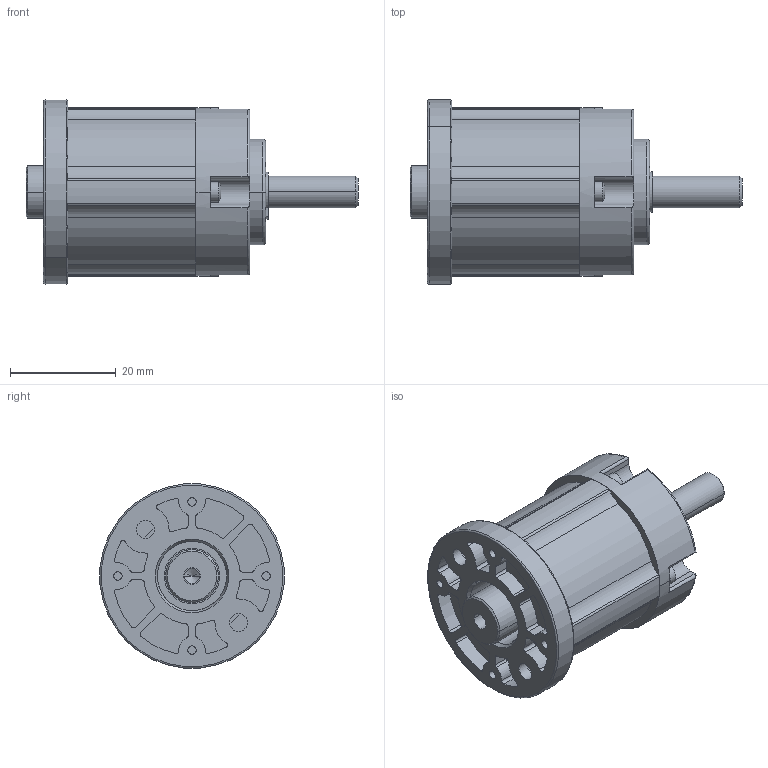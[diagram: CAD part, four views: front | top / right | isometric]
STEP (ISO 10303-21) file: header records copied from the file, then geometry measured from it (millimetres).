
FILE_DESCRIPTION((''),'2;1');
FILE_NAME('IMS32_ECO_2_STAGE_ASM','2023-07-27T09:24:06',('mhummel'),(''),'CREO PARAMETRIC BY PTC INC, 2020184','CREO PARAMETRIC BY PTC INC, 2020184','');
FILE_SCHEMA(('AUTOMOTIVE_DESIGN { 1 0 10303 214 1 1 1 1 }'));
Length unit declared in the file: millimetre
Products named in the file (12): IMS32_ECO_BALL_BEARING; IMS32_ECO_SINTERED_BEARING; IMS32_ECO_RING_GEAR_2_STAGE; IMS32_ECO_MOTOR_FLANGE; IMS32_ECO_SHAFT_RAW_AF0; IMS32_ECO_SHAFT_ASM; IMS32_ECO_RETAINING_RING_A; IMS32_ECO_THRUST_WASHER; IMS32_ECO_SCREW_2_STAGE; IMS32_ECO_MOTOR_PINION_LONG; IMS32_ECO_MOTOR_PINION_SHORT; IMS32_ECO_2_STAGE_ASM
Assembly tree (14 placements, depth 3):
  IMS32_ECO_2_STAGE_ASM
    IMS32_ECO_BALL_BEARING
    IMS32_ECO_SINTERED_BEARING
    IMS32_ECO_RING_GEAR_2_STAGE
    IMS32_ECO_MOTOR_FLANGE
    IMS32_ECO_SHAFT_ASM
      IMS32_ECO_SHAFT_RAW_AF0
    IMS32_ECO_RETAINING_RING_A
    IMS32_ECO_THRUST_WASHER
    IMS32_ECO_SCREW_2_STAGE  x4
    IMS32_ECO_MOTOR_PINION_LONG
    IMS32_ECO_MOTOR_PINION_SHORT
Bounding box: 62.9 x 34.87 x 34.87 mm (x, y, z)
Volume: 20392.1 mm3; surface area: 17901.6 mm2
Topology: 13 solids, 13 shells, 569 faces, 1384 edges, 879 vertices
Faces by surface type: cylinder 344, plane 133, cone 56, torus 28, sphere 8
Entity records: 17971 total; most frequent: DIRECTION 2724, CARTESIAN_POINT 2477, ORIENTED_EDGE 2236, AXIS2_PLACEMENT_3D 1146, PRESENTATION_STYLE_ASSIGNMENT 1128, STYLED_ITEM 1128, CURVE_STYLE 1118, EDGE_CURVE 1118
